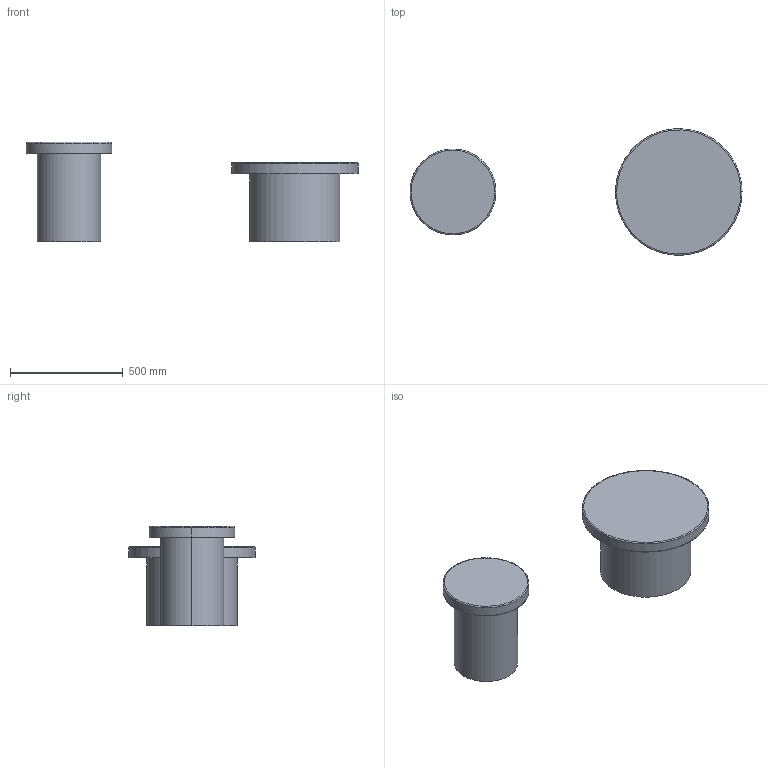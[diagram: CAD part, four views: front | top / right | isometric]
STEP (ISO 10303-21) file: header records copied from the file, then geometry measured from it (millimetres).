
FILE_DESCRIPTION(/* description */ (''),/* implementation_level */ '2;1');
FILE_NAME(/* name */ '20181119_ALWA THREE_JA',/* time_stamp */ '2018-11-19T16:13:20+01:00',/* author */ (''),/* organization */ (''),/* preprocessor_version */ 'ST-DEVELOPER v15',/* originating_system */ '',/* authorisation */ '');
FILE_SCHEMA (('AUTOMOTIVE_DESIGN'));
Length unit declared in the file: millimetre
Products named in the file (1): Document
Bounding box: 1470 x 559.41 x 440 mm (x, y, z)
Volume: 21611864.6 mm3; surface area: 2299790.7 mm2
Topology: 4 solids, 4 shells, 32 faces, 66 edges, 41 vertices
Faces by surface type: bspline 28, plane 4
Entity records: 1931 total; most frequent: CARTESIAN_POINT 1560, ORIENTED_EDGE 120, EDGE_CURVE 60, ADVANCED_FACE 32, FACE_OUTER_BOUND 32, EDGE_LOOP 32, VERTEX_POINT 32, PRESENTATION_LAYER_ASSIGNMENT 10
